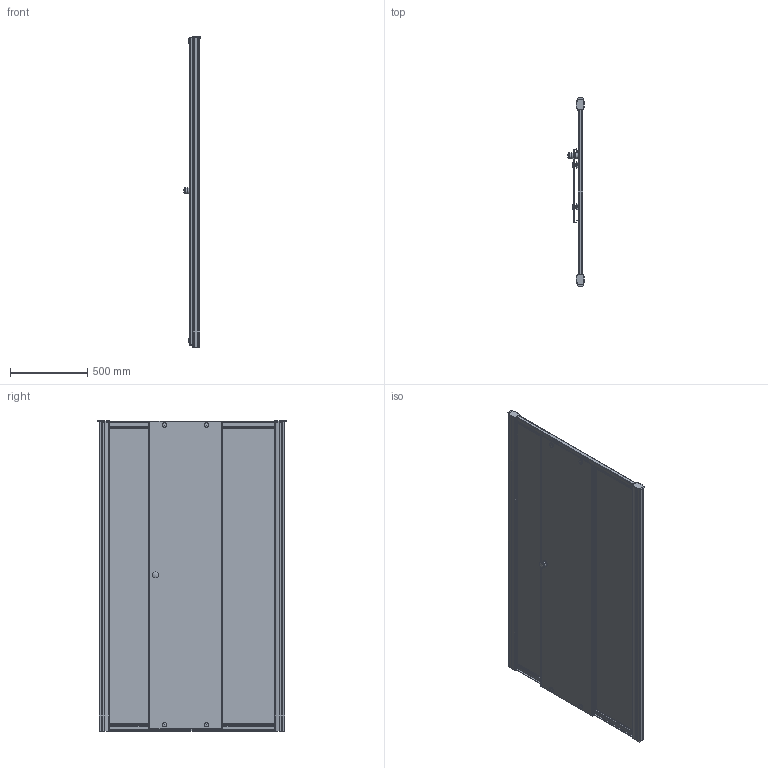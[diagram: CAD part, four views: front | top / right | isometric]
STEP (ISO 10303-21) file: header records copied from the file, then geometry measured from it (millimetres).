
FILE_DESCRIPTION(/* description */ (''),/* implementation_level */ '2;1');
FILE_NAME(/* name */ 'D:\4\!!\GUWER GK-663D\GUWER GK-663D-3D.stp',/* time_stamp */ '2017-09-28T15:08:47+03:00',/* author */ ('ChechurovS'),/* organization */ (''),/* preprocessor_version */ 'ST-DEVELOPER v15.2',/* originating_system */ 'Autodesk Inventor 2014',/* authorisation */ '');
FILE_SCHEMA (('CONFIG_CONTROL_DESIGN'));
Products named in the file (1): GUWER GK-663D-3D
Bounding box: 106.61 x 1218.4 x 2002 mm (x, y, z)
Volume: 26457449.6 mm3; surface area: 5926343.1 mm2
Topology: 3 solids, 27 shells, 1291 faces, 3366 edges, 2101 vertices
Faces by surface type: plane 633, cylinder 388, bspline 154, torus 78, sphere 22, cone 16
Full cylindrical faces by diameter (mm): 3.7 x12, 6 x6, 7 x2, 8 x2, 10.2 x4, 11 x16, 14.1 x8, 19 x4, 22.6 x2, 24.2 x16, 28.7 x4, 38 x4
Entity records: 48284 total; most frequent: CARTESIAN_POINT 15987, ORIENTED_EDGE 6468, DIRECTION 6353, EDGE_CURVE 3230, AXIS2_PLACEMENT_3D 2243, VERTEX_POINT 2071, LINE 1867, VECTOR 1867
